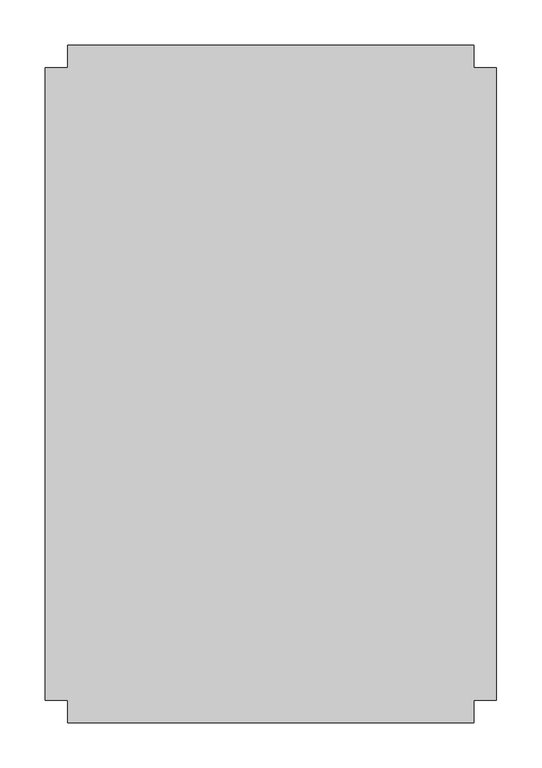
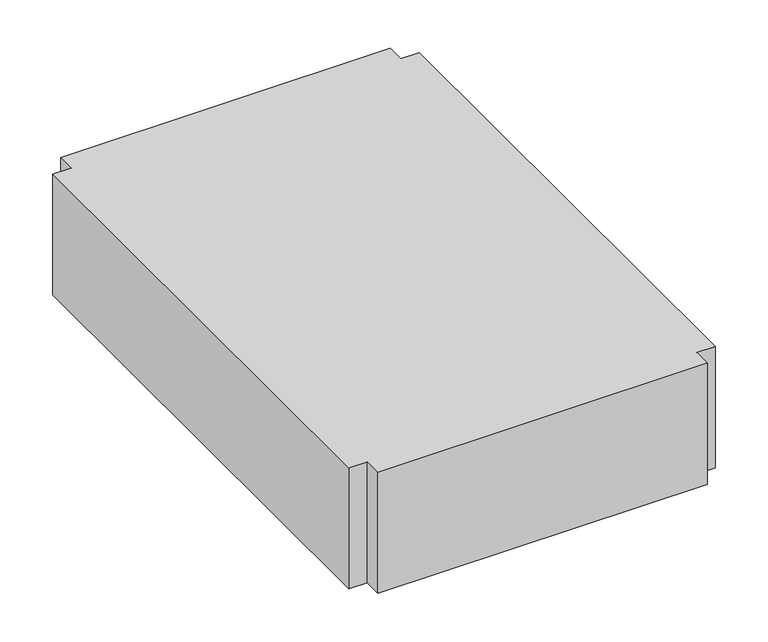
"""IFC4 building model written with IfcOpenShell, lengths in millimetres: duct fitting geometry, M_Cruz rectangular : Estándar."""

from ifc_helpers import new_model, si_unit, frame, origin, place, context, project, spatial, polyline, outline, extrude, source, transform, mapped, element, save


def duct_fitting_408570f2(model_context):
    return source(origin(), model_context, "Body", "SweptSolid", [
        extrude(outline(polyline([(225.0, -375.0), (-225.0, -375.0), (-225.0, -350.0), (-250.0, -350.0), (-250.0, 350.0), (-225.0, 350.0), (-225.0, 375.0), (225.0, 375.0), (225.0, 350.0), (250.0, 350.0), (250.0, -350.0), (225.0, -350.0), (225.0, -375.0)])), frame((0.0, 0.0, -87.5), z_axis=(0.0, 0.0, 1.0), x_axis=(1.0, 0.0, 0.0)), (0.0, 0.0, 1.0), 175.0),
    ])


if __name__ == "__main__":
    model = new_model("IFC4")
    model_context = context("Model", 3, world=origin())
    ifc_project = project(units=[si_unit("LENGTHUNIT", "METRE", prefix="MILLI")], contexts=[model_context])
    site = spatial("IfcSite", under=ifc_project)
    building = spatial("IfcBuilding", under=site)
    placement = place(None, origin())
    duct_fitting_shape = duct_fitting_408570f2(model_context)
    element("IfcDuctFitting", 1, ObjectType="M_Cruz rectangular : Estándar", at=placement, inside=building, context=model_context, shape_type="MappedRepresentation", body=[
        mapped(duct_fitting_shape, transform((0.0, 0.0, 0.0), x_axis=(1.0, 0.0, 0.0), y_axis=(0.0, 1.0, 0.0), z_axis=(0.0, 0.0, 1.0))),
    ])
    save(model, "model.ifc")
